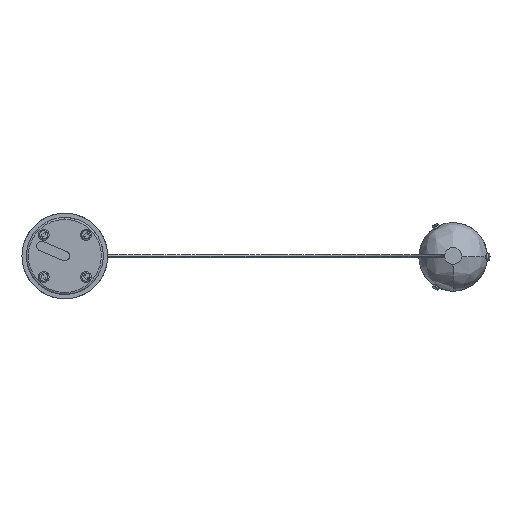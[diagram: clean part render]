
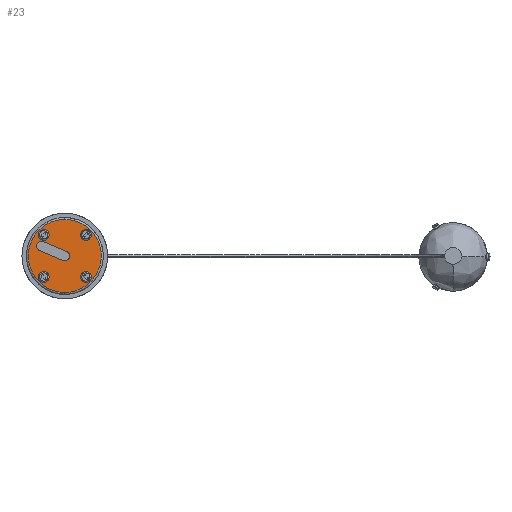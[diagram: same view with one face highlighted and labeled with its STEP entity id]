
A CAD part, top view. The second image highlights one B-rep face of the part: STEP entity #23.
In plain terms, the highlighted planar face has unit normal (0, 0, 1) as drawn and (0, 1, 0) by its records, which use the part's own axes.
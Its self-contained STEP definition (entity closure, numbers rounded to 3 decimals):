
#23=ADVANCED_FACE('',(#219,#200,#201,#202,#203,#204),#2860,.T.);
#200=FACE_BOUND('',#402,.T.);
#201=FACE_BOUND('',#403,.T.);
#202=FACE_BOUND('',#404,.T.);
#203=FACE_BOUND('',#405,.T.);
#204=FACE_BOUND('',#406,.T.);
#219=FACE_OUTER_BOUND('',#401,.T.);
#401=EDGE_LOOP('',(#611,#612));
#402=EDGE_LOOP('',(#613,#614));
#403=EDGE_LOOP('',(#615,#616));
#404=EDGE_LOOP('',(#617,#618));
#405=EDGE_LOOP('',(#619,#620));
#406=EDGE_LOOP('',(#621,#622,#623,#624));
#611=ORIENTED_EDGE('',*,*,#1513,.F.);
#612=ORIENTED_EDGE('',*,*,#1514,.F.);
#613=ORIENTED_EDGE('',*,*,#1522,.T.);
#614=ORIENTED_EDGE('',*,*,#1517,.T.);
#615=ORIENTED_EDGE('',*,*,#1540,.T.);
#616=ORIENTED_EDGE('',*,*,#1535,.T.);
#617=ORIENTED_EDGE('',*,*,#1558,.T.);
#618=ORIENTED_EDGE('',*,*,#1553,.T.);
#619=ORIENTED_EDGE('',*,*,#1576,.T.);
#620=ORIENTED_EDGE('',*,*,#1571,.T.);
#621=ORIENTED_EDGE('',*,*,#1591,.T.);
#622=ORIENTED_EDGE('',*,*,#1594,.T.);
#623=ORIENTED_EDGE('',*,*,#1597,.T.);
#624=ORIENTED_EDGE('',*,*,#1587,.T.);
#1513=EDGE_CURVE('',#2443,#2444,#1977,.T.);
#1514=EDGE_CURVE('',#2444,#2443,#1978,.T.);
#1517=EDGE_CURVE('',#2445,#2446,#1981,.T.);
#1522=EDGE_CURVE('',#2446,#2445,#1984,.T.);
#1535=EDGE_CURVE('',#2447,#2448,#1991,.T.);
#1540=EDGE_CURVE('',#2448,#2447,#1994,.T.);
#1553=EDGE_CURVE('',#2449,#2450,#2001,.T.);
#1558=EDGE_CURVE('',#2450,#2449,#2004,.T.);
#1571=EDGE_CURVE('',#2451,#2452,#2011,.T.);
#1576=EDGE_CURVE('',#2452,#2451,#2014,.T.);
#1587=EDGE_CURVE('',#2453,#2454,#2019,.T.);
#1591=EDGE_CURVE('',#2454,#2456,#2252,.T.);
#1594=EDGE_CURVE('',#2456,#2455,#2021,.T.);
#1597=EDGE_CURVE('',#2455,#2453,#2256,.T.);
#1977=(
BOUNDED_CURVE()
B_SPLINE_CURVE(2,(#9039,#9040,#9041,#9042,#9043),.UNSPECIFIED.,.F.,.F.)
B_SPLINE_CURVE_WITH_KNOTS((3,2,3),(0.,90.321,180.642),
 .UNSPECIFIED.)
CURVE()
GEOMETRIC_REPRESENTATION_ITEM()
RATIONAL_B_SPLINE_CURVE((1.,0.707,1.,0.707,1.))
REPRESENTATION_ITEM('')
);
#1978=(
BOUNDED_CURVE()
B_SPLINE_CURVE(2,(#9044,#9045,#9046,#9047,#9048),.UNSPECIFIED.,.F.,.F.)
B_SPLINE_CURVE_WITH_KNOTS((3,2,3),(-180.642,-90.321,
0.),.UNSPECIFIED.)
CURVE()
GEOMETRIC_REPRESENTATION_ITEM()
RATIONAL_B_SPLINE_CURVE((1.,0.707,1.,0.707,1.))
REPRESENTATION_ITEM('')
);
#1981=(
BOUNDED_CURVE()
B_SPLINE_CURVE(2,(#9057,#9058,#9059,#9060,#9061),.UNSPECIFIED.,.F.,.F.)
B_SPLINE_CURVE_WITH_KNOTS((3,2,3),(-20.628,-10.418,-0.208),
 .UNSPECIFIED.)
CURVE()
GEOMETRIC_REPRESENTATION_ITEM()
RATIONAL_B_SPLINE_CURVE((1.,0.707,1.,0.707,1.))
REPRESENTATION_ITEM('')
);
#1984=(
BOUNDED_CURVE()
B_SPLINE_CURVE(2,(#9074,#9075,#9076,#9077,#9078),.UNSPECIFIED.,.F.,.F.)
B_SPLINE_CURVE_WITH_KNOTS((3,2,3),(-20.628,-10.418,-0.208),
 .UNSPECIFIED.)
CURVE()
GEOMETRIC_REPRESENTATION_ITEM()
RATIONAL_B_SPLINE_CURVE((1.,0.707,1.,0.707,1.))
REPRESENTATION_ITEM('')
);
#1991=(
BOUNDED_CURVE()
B_SPLINE_CURVE(2,(#9119,#9120,#9121,#9122,#9123),.UNSPECIFIED.,.F.,.F.)
B_SPLINE_CURVE_WITH_KNOTS((3,2,3),(-20.628,-10.418,-0.208),
 .UNSPECIFIED.)
CURVE()
GEOMETRIC_REPRESENTATION_ITEM()
RATIONAL_B_SPLINE_CURVE((1.,0.707,1.,0.707,1.))
REPRESENTATION_ITEM('')
);
#1994=(
BOUNDED_CURVE()
B_SPLINE_CURVE(2,(#9136,#9137,#9138,#9139,#9140),.UNSPECIFIED.,.F.,.F.)
B_SPLINE_CURVE_WITH_KNOTS((3,2,3),(-20.628,-10.418,-0.208),
 .UNSPECIFIED.)
CURVE()
GEOMETRIC_REPRESENTATION_ITEM()
RATIONAL_B_SPLINE_CURVE((1.,0.707,1.,0.707,1.))
REPRESENTATION_ITEM('')
);
#2001=(
BOUNDED_CURVE()
B_SPLINE_CURVE(2,(#9181,#9182,#9183,#9184,#9185),.UNSPECIFIED.,.F.,.F.)
B_SPLINE_CURVE_WITH_KNOTS((3,2,3),(-20.628,-10.418,-0.208),
 .UNSPECIFIED.)
CURVE()
GEOMETRIC_REPRESENTATION_ITEM()
RATIONAL_B_SPLINE_CURVE((1.,0.707,1.,0.707,1.))
REPRESENTATION_ITEM('')
);
#2004=(
BOUNDED_CURVE()
B_SPLINE_CURVE(2,(#9198,#9199,#9200,#9201,#9202),.UNSPECIFIED.,.F.,.F.)
B_SPLINE_CURVE_WITH_KNOTS((3,2,3),(-20.628,-10.418,-0.208),
 .UNSPECIFIED.)
CURVE()
GEOMETRIC_REPRESENTATION_ITEM()
RATIONAL_B_SPLINE_CURVE((1.,0.707,1.,0.707,1.))
REPRESENTATION_ITEM('')
);
#2011=(
BOUNDED_CURVE()
B_SPLINE_CURVE(2,(#9243,#9244,#9245,#9246,#9247),.UNSPECIFIED.,.F.,.F.)
B_SPLINE_CURVE_WITH_KNOTS((3,2,3),(-20.628,-10.418,-0.208),
 .UNSPECIFIED.)
CURVE()
GEOMETRIC_REPRESENTATION_ITEM()
RATIONAL_B_SPLINE_CURVE((1.,0.707,1.,0.707,1.))
REPRESENTATION_ITEM('')
);
#2014=(
BOUNDED_CURVE()
B_SPLINE_CURVE(2,(#9260,#9261,#9262,#9263,#9264),.UNSPECIFIED.,.F.,.F.)
B_SPLINE_CURVE_WITH_KNOTS((3,2,3),(-20.628,-10.418,-0.208),
 .UNSPECIFIED.)
CURVE()
GEOMETRIC_REPRESENTATION_ITEM()
RATIONAL_B_SPLINE_CURVE((1.,0.707,1.,0.707,1.))
REPRESENTATION_ITEM('')
);
#2019=(
BOUNDED_CURVE()
B_SPLINE_CURVE(2,(#9297,#9298,#9299,#9300,#9301),.UNSPECIFIED.,.F.,.F.)
B_SPLINE_CURVE_WITH_KNOTS((3,2,3),(-23.562,-11.781,
0.),.UNSPECIFIED.)
CURVE()
GEOMETRIC_REPRESENTATION_ITEM()
RATIONAL_B_SPLINE_CURVE((1.,0.707,1.,0.707,1.))
REPRESENTATION_ITEM('')
);
#2021=(
BOUNDED_CURVE()
B_SPLINE_CURVE(2,(#9317,#9318,#9319,#9320,#9321),.UNSPECIFIED.,.F.,.F.)
B_SPLINE_CURVE_WITH_KNOTS((3,2,3),(-23.562,-11.781,
0.),.UNSPECIFIED.)
CURVE()
GEOMETRIC_REPRESENTATION_ITEM()
RATIONAL_B_SPLINE_CURVE((1.,0.707,1.,0.707,1.))
REPRESENTATION_ITEM('')
);
#2252=B_SPLINE_CURVE_WITH_KNOTS('',1,(#9311,#9312),.UNSPECIFIED.,.F.,.F.,
(2,2),(-40.,0.),.UNSPECIFIED.);
#2256=B_SPLINE_CURVE_WITH_KNOTS('',1,(#9329,#9330),.UNSPECIFIED.,.F.,.F.,
(2,2),(-40.,0.),.UNSPECIFIED.);
#2443=VERTEX_POINT('',#8722);
#2444=VERTEX_POINT('',#8723);
#2445=VERTEX_POINT('',#8724);
#2446=VERTEX_POINT('',#8725);
#2447=VERTEX_POINT('',#8726);
#2448=VERTEX_POINT('',#8727);
#2449=VERTEX_POINT('',#8728);
#2450=VERTEX_POINT('',#8729);
#2451=VERTEX_POINT('',#8730);
#2452=VERTEX_POINT('',#8731);
#2453=VERTEX_POINT('',#8732);
#2454=VERTEX_POINT('',#8733);
#2455=VERTEX_POINT('',#8734);
#2456=VERTEX_POINT('',#8735);
#2860=PLANE('',#3089);
#3089=AXIS2_PLACEMENT_3D('',#3403,#3147,$);
#3147=DIRECTION('',(0.,1.,0.));
#3403=CARTESIAN_POINT('',(69.023,0.,69.023));
#8722=CARTESIAN_POINT('',(0.,0.,-57.5));
#8723=CARTESIAN_POINT('',(0.,0.,57.5));
#8724=CARTESIAN_POINT('',(-27.224,0.,-27.224));
#8725=CARTESIAN_POINT('',(-39.244,0.,-39.244));
#8726=CARTESIAN_POINT('',(-27.224,0.,27.224));
#8727=CARTESIAN_POINT('',(-39.244,0.,39.244));
#8728=CARTESIAN_POINT('',(27.224,0.,27.224));
#8729=CARTESIAN_POINT('',(39.244,0.,39.244));
#8730=CARTESIAN_POINT('',(27.224,0.,-27.224));
#8731=CARTESIAN_POINT('',(39.244,0.,-39.244));
#8732=CARTESIAN_POINT('',(2.93,0.,-6.904));
#8733=CARTESIAN_POINT('',(-2.93,0.,6.904));
#8734=CARTESIAN_POINT('',(-33.89,0.,-22.533));
#8735=CARTESIAN_POINT('',(-39.751,0.,-8.725));
#9039=CARTESIAN_POINT('',(0.,0.,-57.5));
#9040=CARTESIAN_POINT('',(57.5,0.,-57.5));
#9041=CARTESIAN_POINT('',(57.5,0.,0.));
#9042=CARTESIAN_POINT('',(57.5,0.,57.5));
#9043=CARTESIAN_POINT('',(0.,0.,57.5));
#9044=CARTESIAN_POINT('',(0.,0.,57.5));
#9045=CARTESIAN_POINT('',(-57.5,0.,57.5));
#9046=CARTESIAN_POINT('',(-57.5,0.,0.));
#9047=CARTESIAN_POINT('',(-57.5,0.,-57.5));
#9048=CARTESIAN_POINT('',(0.,0.,-57.5));
#9057=CARTESIAN_POINT('',(-27.224,0.,-27.224));
#9058=CARTESIAN_POINT('',(-33.234,0.,-21.213));
#9059=CARTESIAN_POINT('',(-39.244,0.,-27.224));
#9060=CARTESIAN_POINT('',(-45.255,0.,-33.234));
#9061=CARTESIAN_POINT('',(-39.244,0.,-39.244));
#9074=CARTESIAN_POINT('',(-39.244,0.,-39.244));
#9075=CARTESIAN_POINT('',(-33.234,0.,-45.255));
#9076=CARTESIAN_POINT('',(-27.224,0.,-39.244));
#9077=CARTESIAN_POINT('',(-21.213,0.,-33.234));
#9078=CARTESIAN_POINT('',(-27.224,0.,-27.224));
#9119=CARTESIAN_POINT('',(-27.224,0.,27.224));
#9120=CARTESIAN_POINT('',(-21.213,0.,33.234));
#9121=CARTESIAN_POINT('',(-27.224,0.,39.244));
#9122=CARTESIAN_POINT('',(-33.234,0.,45.255));
#9123=CARTESIAN_POINT('',(-39.244,0.,39.244));
#9136=CARTESIAN_POINT('',(-39.244,0.,39.244));
#9137=CARTESIAN_POINT('',(-45.255,0.,33.234));
#9138=CARTESIAN_POINT('',(-39.244,0.,27.224));
#9139=CARTESIAN_POINT('',(-33.234,0.,21.213));
#9140=CARTESIAN_POINT('',(-27.224,0.,27.224));
#9181=CARTESIAN_POINT('',(27.224,0.,27.224));
#9182=CARTESIAN_POINT('',(33.234,0.,21.213));
#9183=CARTESIAN_POINT('',(39.244,0.,27.224));
#9184=CARTESIAN_POINT('',(45.255,0.,33.234));
#9185=CARTESIAN_POINT('',(39.244,0.,39.244));
#9198=CARTESIAN_POINT('',(39.244,0.,39.244));
#9199=CARTESIAN_POINT('',(33.234,0.,45.255));
#9200=CARTESIAN_POINT('',(27.224,0.,39.244));
#9201=CARTESIAN_POINT('',(21.213,0.,33.234));
#9202=CARTESIAN_POINT('',(27.224,0.,27.224));
#9243=CARTESIAN_POINT('',(27.224,0.,-27.224));
#9244=CARTESIAN_POINT('',(21.213,0.,-33.234));
#9245=CARTESIAN_POINT('',(27.224,0.,-39.244));
#9246=CARTESIAN_POINT('',(33.234,0.,-45.255));
#9247=CARTESIAN_POINT('',(39.244,0.,-39.244));
#9260=CARTESIAN_POINT('',(39.244,0.,-39.244));
#9261=CARTESIAN_POINT('',(45.255,0.,-33.234));
#9262=CARTESIAN_POINT('',(39.244,0.,-27.224));
#9263=CARTESIAN_POINT('',(33.234,0.,-21.213));
#9264=CARTESIAN_POINT('',(27.224,0.,-27.224));
#9297=CARTESIAN_POINT('',(2.93,0.,-6.904));
#9298=CARTESIAN_POINT('',(9.834,0.,-3.973));
#9299=CARTESIAN_POINT('',(6.904,0.,2.93));
#9300=CARTESIAN_POINT('',(3.973,0.,9.834));
#9301=CARTESIAN_POINT('',(-2.93,0.,6.904));
#9311=CARTESIAN_POINT('',(-2.93,0.,6.904));
#9312=CARTESIAN_POINT('',(-39.751,0.,-8.725));
#9317=CARTESIAN_POINT('',(-39.751,0.,-8.725));
#9318=CARTESIAN_POINT('',(-46.654,0.,-11.656));
#9319=CARTESIAN_POINT('',(-43.724,0.,-18.56));
#9320=CARTESIAN_POINT('',(-40.793,0.,-25.464));
#9321=CARTESIAN_POINT('',(-33.89,0.,-22.533));
#9329=CARTESIAN_POINT('',(-33.89,0.,-22.533));
#9330=CARTESIAN_POINT('',(2.93,0.,-6.904));
